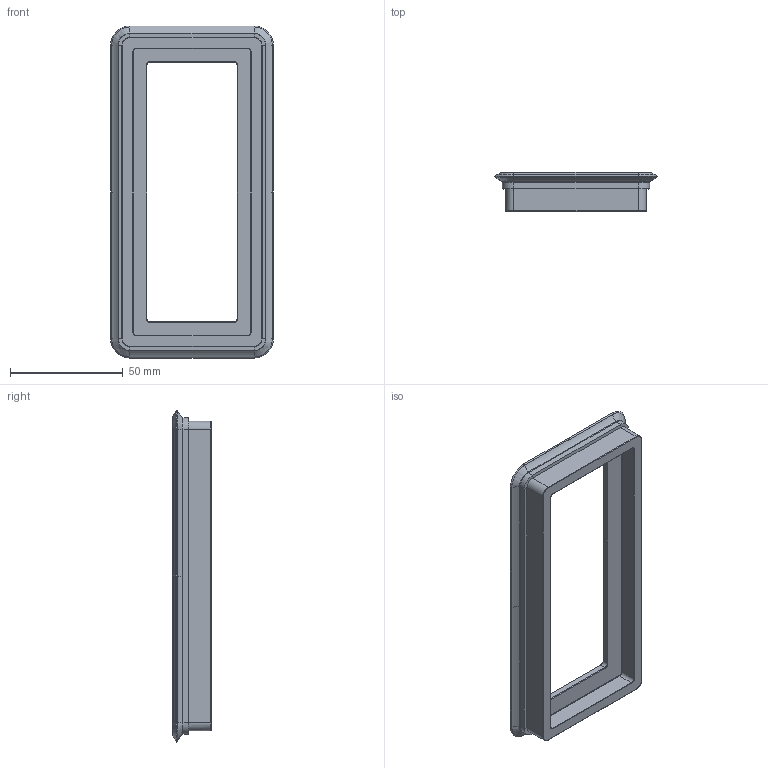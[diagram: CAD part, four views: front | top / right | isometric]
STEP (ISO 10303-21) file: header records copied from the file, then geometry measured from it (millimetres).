
FILE_DESCRIPTION (( 'STEP AP214' ), '1' );
FILE_NAME ('0115075.STEP', '2025-02-12T15:39:39', ( '' ), ( '' ), 'SwSTEP 2.0', 'SolidWorks 2018', '' );
FILE_SCHEMA (( 'AUTOMOTIVE_DESIGN' ));
Length unit declared in the file: millimetre
Products named in the file (1): 0115075
Bounding box: 72 x 17.11 x 147 mm (x, y, z)
Volume: 36202.9 mm3; surface area: 25194.8 mm2
Topology: 1 solids, 1 shells, 197 faces, 438 edges, 246 vertices
Faces by surface type: bspline 68, plane 57, cylinder 48, cone 16, torus 8
Entity records: 6737 total; most frequent: CARTESIAN_POINT 2819, ORIENTED_EDGE 876, DIRECTION 662, EDGE_CURVE 438, VERTEX_POINT 246, VECTOR 226, LINE 226, AXIS2_PLACEMENT_3D 218
